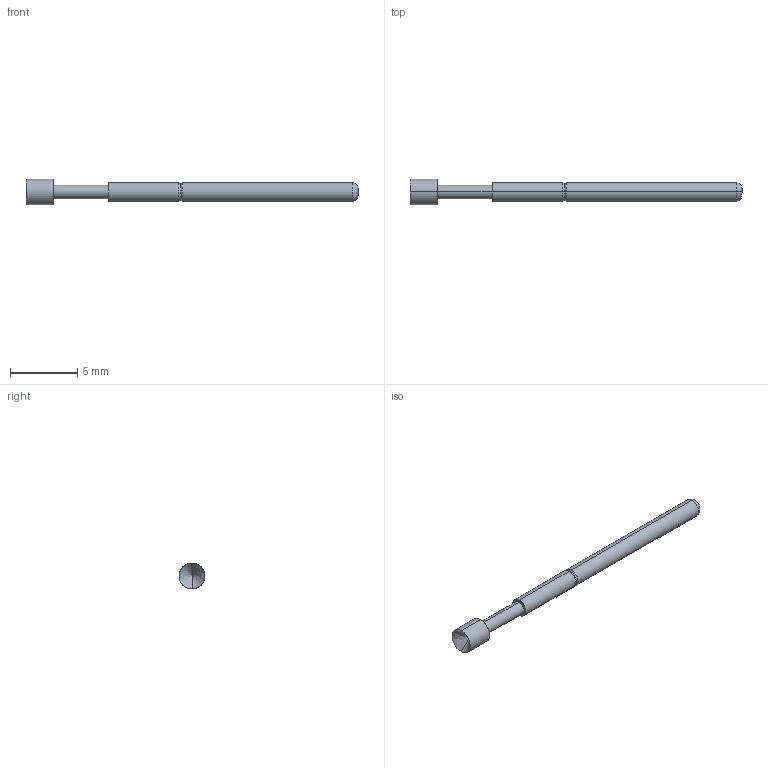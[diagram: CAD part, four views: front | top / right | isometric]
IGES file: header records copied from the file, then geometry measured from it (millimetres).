
Start section: SolidWorks IGES file using analytic representation for surfaces
Global section: file name: Z:\probe solid model mockups\Solidworks models\IGES Files\EPA-2\EPA-2A.IGS; native system: SolidWorks 2006 by SolidWorks Corporation; preprocessor: SolidWorks 2006 by SolidWorks Corporation; author: tsakatani; date: 071220.161202; units: inch
Bounding box: 24.64 x 1.91 x 1.91 mm (x, y, z)
Surface area: 112.5 mm2 (no closed solid volume)
Topology: 0 solids, 0 shells, 19 faces, 160 edges, 158 vertices
Faces by surface type: revolution 10, bspline 9
